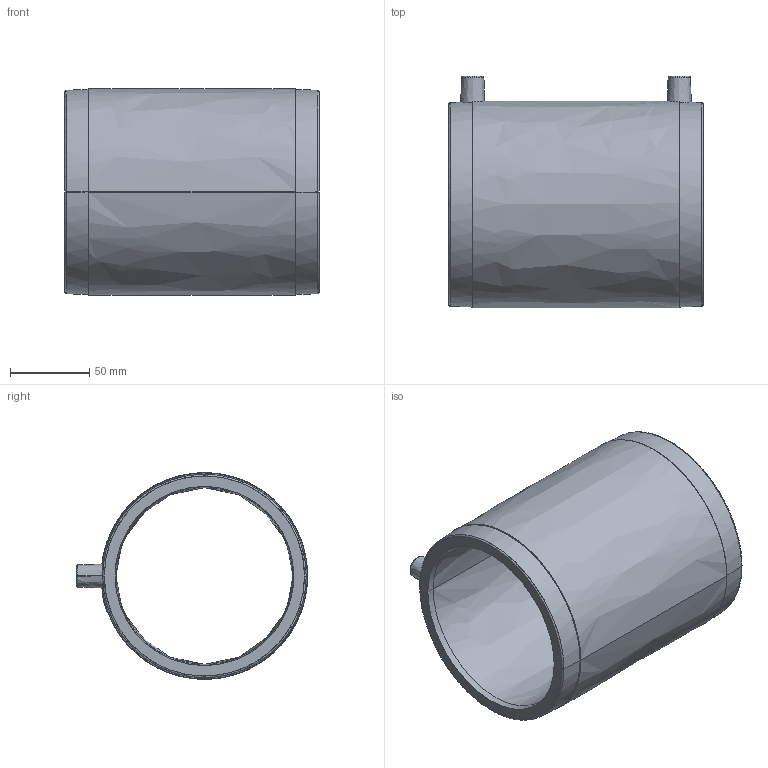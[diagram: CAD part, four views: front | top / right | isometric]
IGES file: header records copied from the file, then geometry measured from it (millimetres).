
Start section:  PTC IGES file: am_d110.igs
Global section: file name: am_d110.igs; native system: Pro/ENGINEER by Parametric Technology Corporation; preprocessor: 2011490; author: mtunjic; organization: Unknown; date: 20130729.163703; units: millimetre
Bounding box: 160 x 145.65 x 130 mm (x, y, z)
Surface area: 128544.4 mm2 (no closed solid volume)
Topology: 0 solids, 0 shells, 145 faces, 736 edges, 736 vertices
Faces by surface type: bspline 145
